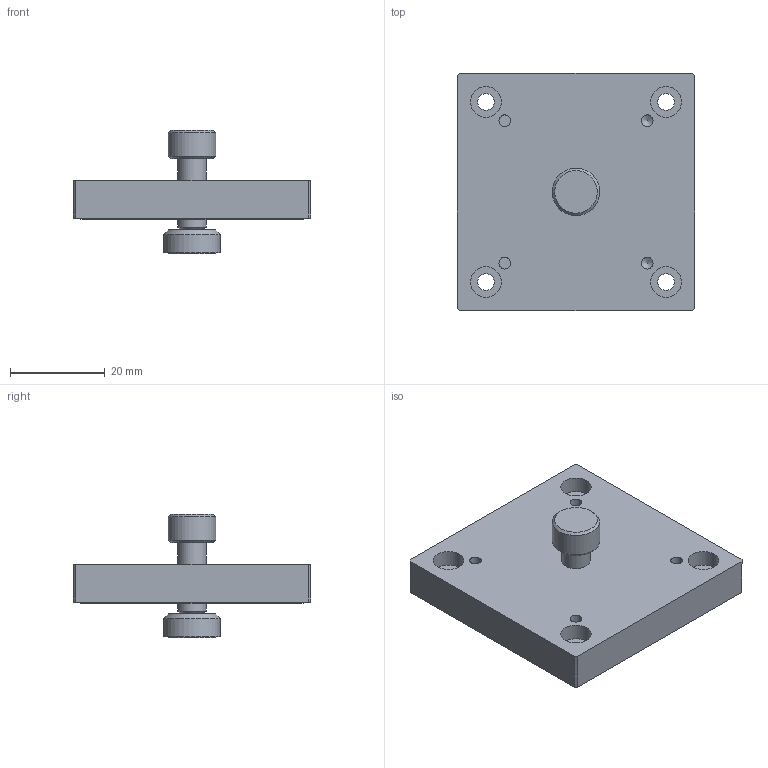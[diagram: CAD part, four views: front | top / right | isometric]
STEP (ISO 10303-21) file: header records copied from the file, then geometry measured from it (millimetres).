
FILE_DESCRIPTION(/* description */ (''),/* implementation_level */ '2;1');
FILE_NAME(/* name */ '\\fs401\share\Public_Div\生産本部_光学機器部\1_MEKA\2_OpticalHard\08_Cage Systems\C30ｼﾘｰｽﾞ\C30-CBCP\WEBデータ\C30-CBCP.stp',/* time_stamp */ '2022-08-23T12:12:32+09:00',/* author */ ('e.nonaka'),/* organization */ (''),/* preprocessor_version */ 'ST-DEVELOPER v18.1',/* originating_system */ 'Autodesk Inventor 2021',/* authorisation */ '');
FILE_SCHEMA (('AUTOMOTIVE_DESIGN { 1 0 10303 214 3 1 1 }'));
Length unit declared in the file: millimetre
Products named in the file (1): C30CBCP-M02-22001-TS01
Bounding box: 50 x 50 x 26 mm (x, y, z)
Volume: 20262.6 mm3; surface area: 9455.9 mm2
Topology: 2 solids, 2 shells, 56 faces, 116 edges, 75 vertices
Faces by surface type: plane 23, cylinder 22, cone 8, torus 3
Full cylindrical faces by diameter (mm): 2.5 x4, 3.5 x4, 6 x2, 6.5 x4, 10 x2, 12 x1, 13 x1, 45 x2, 49 x2
Entity records: 1598 total; most frequent: DIRECTION 284, CARTESIAN_POINT 244, ORIENTED_EDGE 224, AXIS2_PLACEMENT_3D 115, EDGE_CURVE 112, EDGE_LOOP 81, VERTEX_POINT 75, CIRCLE 58
